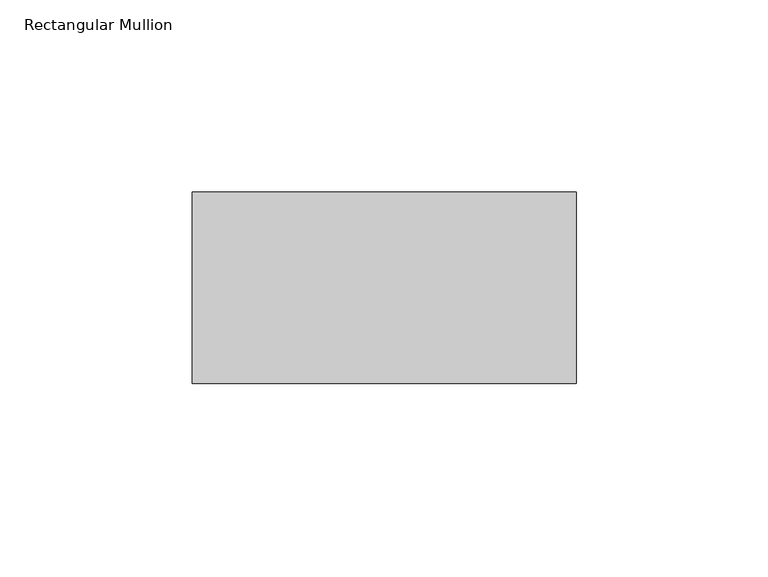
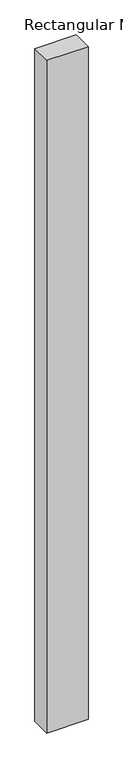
"""IFC4 building model written with IfcOpenShell, lengths in millimetres: member geometry, Rectangular Mullion : Mullion_Curtain Wall_Generic Showcase_50x100mm."""

from ifc_helpers import new_model, si_unit, frame, origin, place, context, project, spatial, polyline, outline, extrude, source, transform, mapped, element, save


def rectangular_mullion_4ec2ad2f(model_context):
    return source(origin(), model_context, "Body", "SweptSolid", [
        extrude(outline(polyline([(0.0, 0.0), (0.0, -50.0), (-100.0, -50.0), (-100.0, 0.0), (0.0, 0.0)])), frame((0.0, 0.0, -1725.0), z_axis=(0.0, 0.0, 1.0), x_axis=(1.0, 0.0, 0.0)), (0.0, 0.0, 1.0), 1725.0),
    ])


if __name__ == "__main__":
    model = new_model("IFC4")
    model_context = context("Model", 3, world=origin())
    ifc_project = project(units=[si_unit("LENGTHUNIT", "METRE", prefix="MILLI")], contexts=[model_context])
    site = spatial("IfcSite", under=ifc_project)
    building = spatial("IfcBuilding", under=site)
    placement = place(None, origin())
    rectangular_mullion_shape = rectangular_mullion_4ec2ad2f(model_context)
    element("IfcMember", 1, ObjectType="Rectangular Mullion : Mullion_Curtain Wall_Generic Showcase_50x100mm", at=placement, inside=building, context=model_context, shape_type="MappedRepresentation", body=[
        mapped(rectangular_mullion_shape, transform((0.0, 0.0, 0.0), x_axis=(1.0, 0.0, 0.0), y_axis=(0.0, 1.0, 0.0), z_axis=(0.0, 0.0, 1.0))),
    ])
    save(model, "model.ifc")
